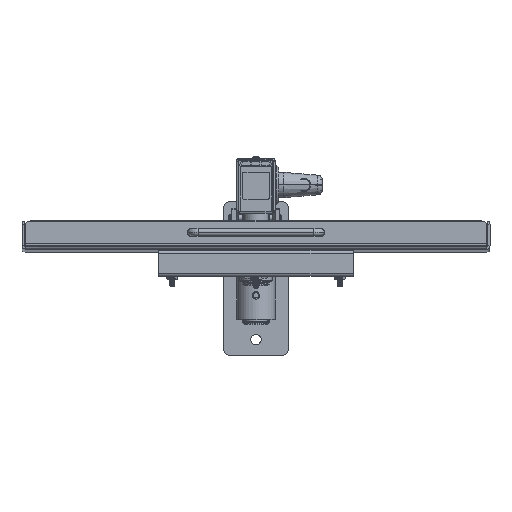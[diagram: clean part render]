
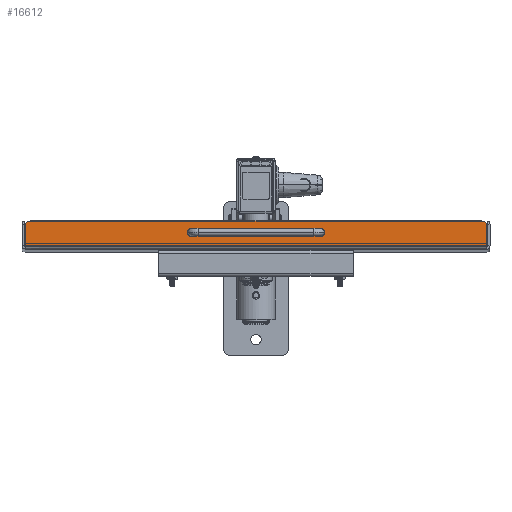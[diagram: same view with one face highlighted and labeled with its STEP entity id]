
A CAD part, top view. The second image highlights one B-rep face of the part: STEP entity #16612.
In plain terms, the highlighted planar face has unit normal (0, 0.008, 1) as drawn and (0, 0, 1) by its records, which use the part's own axes.
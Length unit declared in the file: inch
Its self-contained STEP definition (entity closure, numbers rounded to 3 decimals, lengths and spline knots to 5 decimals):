
#17 = DIRECTION ( 'NONE',  ( 0., -1., 0. ) ) ;
#478 = DIRECTION ( 'NONE',  ( 0., 0., -1. ) ) ;
#633 = VERTEX_POINT ( 'NONE', #85691 ) ;
#1013 = DIRECTION ( 'NONE',  ( 0., -1., 0. ) ) ;
#1367 = DIRECTION ( 'NONE',  ( 1., 0., 0. ) ) ;
#2252 = CARTESIAN_POINT ( 'NONE',  ( -8.75, 1., 6.09 ) ) ;
#2824 = CARTESIAN_POINT ( 'NONE',  ( 8.96464, 0.87817, 6.09 ) ) ;
#2931 = CARTESIAN_POINT ( 'NONE',  ( -2.5, 0.55, 6.09 ) ) ;
#3899 = PLANE ( 'NONE',  #54337 ) ;
#4984 = AXIS2_PLACEMENT_3D ( 'NONE', #76141, #478, #17 ) ;
#4986 = VERTEX_POINT ( 'NONE', #67404 ) ;
#5899 = CIRCLE ( 'NONE', #17599, 0.1005 ) ;
#7031 = DIRECTION ( 'NONE',  ( 0., -1., 0. ) ) ;
#8514 = AXIS2_PLACEMENT_3D ( 'NONE', #2931, #73535, #79066 ) ;
#11725 = DIRECTION ( 'NONE',  ( -1., 0., 0. ) ) ;
#11832 = VECTOR ( 'NONE', #7031, 39.37008 ) ;
#12247 = CARTESIAN_POINT ( 'NONE',  ( -2.6005, 0.55, 6.09 ) ) ;
#16612 = ADVANCED_FACE ( 'NONE', ( #84661, #60275, #25851 ), #3899, .T. ) ;
#16964 = AXIS2_PLACEMENT_3D ( 'NONE', #62331, #20119, #61890 ) ;
#16980 = VERTEX_POINT ( 'NONE', #55216 ) ;
#17599 = AXIS2_PLACEMENT_3D ( 'NONE', #33209, #68513, #41447 ) ;
#19408 = ORIENTED_EDGE ( 'NONE', *, *, #52016, .F. ) ;
#19544 = AXIS2_PLACEMENT_3D ( 'NONE', #62029, #90002, #1013 ) ;
#19913 = CARTESIAN_POINT ( 'NONE',  ( -8.96464, 0.75, 6.09 ) ) ;
#20119 = DIRECTION ( 'NONE',  ( 0., 0., -1. ) ) ;
#22462 = VERTEX_POINT ( 'NONE', #88763 ) ;
#25851 = FACE_BOUND ( 'NONE', #49061, .T. ) ;
#26804 = DIRECTION ( 'NONE',  ( 0., -1., 0. ) ) ;
#27663 = LINE ( 'NONE', #90514, #11832 ) ;
#28529 = ORIENTED_EDGE ( 'NONE', *, *, #74788, .T. ) ;
#33209 = CARTESIAN_POINT ( 'NONE',  ( 2.5, 0.55, 6.09 ) ) ;
#34873 = CIRCLE ( 'NONE', #86110, 0.1005 ) ;
#35436 = EDGE_CURVE ( 'NONE', #37717, #88745, #85784, .T. ) ;
#37717 = VERTEX_POINT ( 'NONE', #2252 ) ;
#38483 = EDGE_CURVE ( 'NONE', #88745, #87875, #57658, .T. ) ;
#41447 = DIRECTION ( 'NONE',  ( -1., 0., 0. ) ) ;
#42095 = ORIENTED_EDGE ( 'NONE', *, *, #35436, .F. ) ;
#42507 = EDGE_CURVE ( 'NONE', #61329, #4986, #5899, .T. ) ;
#42788 = EDGE_LOOP ( 'NONE', ( #85036, #28529 ) ) ;
#43637 = ORIENTED_EDGE ( 'NONE', *, *, #54931, .T. ) ;
#46551 = CIRCLE ( 'NONE', #8514, 0.1005 ) ;
#46598 = CARTESIAN_POINT ( 'NONE',  ( 2.5, 0.55, 6.09 ) ) ;
#49061 = EDGE_LOOP ( 'NONE', ( #85683, #53888 ) ) ;
#49185 = CIRCLE ( 'NONE', #16964, 0.1005 ) ;
#50012 = DIRECTION ( 'NONE',  ( 1., 0., 0. ) ) ;
#50917 = CARTESIAN_POINT ( 'NONE',  ( 8.75, 1., 6.09 ) ) ;
#52016 = EDGE_CURVE ( 'NONE', #633, #37717, #84080, .T. ) ;
#53496 = VECTOR ( 'NONE', #26804, 39.37008 ) ;
#53888 = ORIENTED_EDGE ( 'NONE', *, *, #66331, .T. ) ;
#54274 = ORIENTED_EDGE ( 'NONE', *, *, #38483, .F. ) ;
#54337 = AXIS2_PLACEMENT_3D ( 'NONE', #67609, #72709, #67167 ) ;
#54931 = EDGE_CURVE ( 'NONE', #22462, #89573, #64175, .T. ) ;
#55216 = CARTESIAN_POINT ( 'NONE',  ( -2.3995, 0.55, 6.09 ) ) ;
#57273 = CARTESIAN_POINT ( 'NONE',  ( 8.75, 0.032, 6.09 ) ) ;
#57658 = CIRCLE ( 'NONE', #19544, 0.25 ) ;
#57676 = VECTOR ( 'NONE', #1367, 39.37008 ) ;
#58900 = CARTESIAN_POINT ( 'NONE',  ( 2.6005, 0.55, 6.09 ) ) ;
#60275 = FACE_OUTER_BOUND ( 'NONE', #63918, .T. ) ;
#61329 = VERTEX_POINT ( 'NONE', #58900 ) ;
#61890 = DIRECTION ( 'NONE',  ( -1., 0., 0. ) ) ;
#62029 = CARTESIAN_POINT ( 'NONE',  ( 8.75, 0.75, 6.09 ) ) ;
#62331 = CARTESIAN_POINT ( 'NONE',  ( -2.5, 0.55, 6.09 ) ) ;
#63918 = EDGE_LOOP ( 'NONE', ( #84386, #54274, #42095, #19408, #74877, #43637 ) ) ;
#64155 = CARTESIAN_POINT ( 'NONE',  ( 8.96464, 0.032, 6.09 ) ) ;
#64175 = LINE ( 'NONE', #57273, #57676 ) ;
#66331 = EDGE_CURVE ( 'NONE', #4986, #61329, #34873, .T. ) ;
#67167 = DIRECTION ( 'NONE',  ( 0., -1., 0. ) ) ;
#67404 = CARTESIAN_POINT ( 'NONE',  ( 2.3995, 0.55, 6.09 ) ) ;
#67609 = CARTESIAN_POINT ( 'NONE',  ( 8.75, 0.75, 6.09 ) ) ;
#68513 = DIRECTION ( 'NONE',  ( 0., 0., -1. ) ) ;
#72326 = VECTOR ( 'NONE', #50012, 39.37008 ) ;
#72709 = DIRECTION ( 'NONE',  ( 0., 0., 1. ) ) ;
#73127 = EDGE_CURVE ( 'NONE', #87875, #89573, #27663, .T. ) ;
#73535 = DIRECTION ( 'NONE',  ( 0., 0., -1. ) ) ;
#74788 = EDGE_CURVE ( 'NONE', #82195, #16980, #49185, .T. ) ;
#74877 = ORIENTED_EDGE ( 'NONE', *, *, #86740, .T. ) ;
#75359 = CARTESIAN_POINT ( 'NONE',  ( 8.75, 1., 6.09 ) ) ;
#76141 = CARTESIAN_POINT ( 'NONE',  ( -8.75, 0.75, 6.09 ) ) ;
#79066 = DIRECTION ( 'NONE',  ( -1., 0., 0. ) ) ;
#82195 = VERTEX_POINT ( 'NONE', #12247 ) ;
#82317 = LINE ( 'NONE', #19913, #53496 ) ;
#82374 = DIRECTION ( 'NONE',  ( 0., 0., -1. ) ) ;
#83393 = EDGE_CURVE ( 'NONE', #16980, #82195, #46551, .T. ) ;
#84080 = CIRCLE ( 'NONE', #4984, 0.25 ) ;
#84386 = ORIENTED_EDGE ( 'NONE', *, *, #73127, .F. ) ;
#84661 = FACE_BOUND ( 'NONE', #42788, .T. ) ;
#85036 = ORIENTED_EDGE ( 'NONE', *, *, #83393, .T. ) ;
#85683 = ORIENTED_EDGE ( 'NONE', *, *, #42507, .T. ) ;
#85691 = CARTESIAN_POINT ( 'NONE',  ( -8.96464, 0.87817, 6.09 ) ) ;
#85784 = LINE ( 'NONE', #50917, #72326 ) ;
#86110 = AXIS2_PLACEMENT_3D ( 'NONE', #46598, #82374, #11725 ) ;
#86740 = EDGE_CURVE ( 'NONE', #633, #22462, #82317, .T. ) ;
#87875 = VERTEX_POINT ( 'NONE', #2824 ) ;
#88745 = VERTEX_POINT ( 'NONE', #75359 ) ;
#88763 = CARTESIAN_POINT ( 'NONE',  ( -8.96464, 0.032, 6.09 ) ) ;
#89573 = VERTEX_POINT ( 'NONE', #64155 ) ;
#90002 = DIRECTION ( 'NONE',  ( 0., 0., -1. ) ) ;
#90514 = CARTESIAN_POINT ( 'NONE',  ( 8.96464, 0.75, 6.09 ) ) ;
